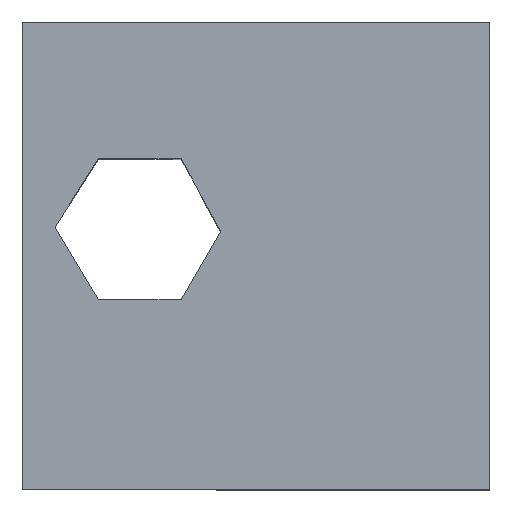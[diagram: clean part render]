
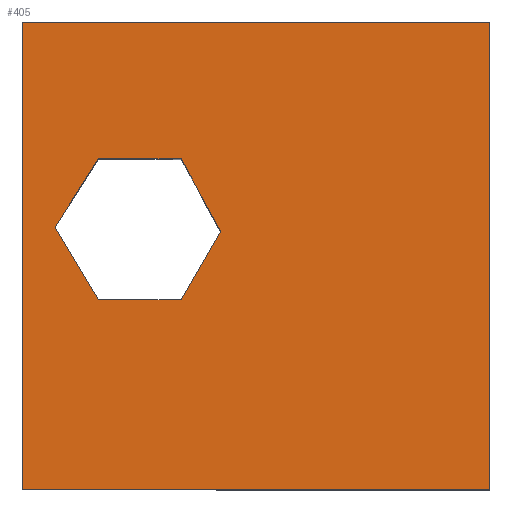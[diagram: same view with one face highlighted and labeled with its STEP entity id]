
A CAD part, top view. The second image highlights one B-rep face of the part: STEP entity #405.
In plain terms, the highlighted planar face has unit normal (0, 0, 1).
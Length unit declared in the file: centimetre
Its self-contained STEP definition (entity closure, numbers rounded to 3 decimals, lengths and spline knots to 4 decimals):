
#13 = VERTEX_POINT ( 'NONE', #82 ) ;
#17 = ORIENTED_EDGE ( 'NONE', *, *, #310, .F. ) ;
#18 = LINE ( 'NONE', #297, #526 ) ;
#20 = LINE ( 'NONE', #160, #78 ) ;
#30 = VERTEX_POINT ( 'NONE', #435 ) ;
#34 = ORIENTED_EDGE ( 'NONE', *, *, #145, .T. ) ;
#35 = CARTESIAN_POINT ( 'NONE',  ( 424.4091, 551.3512, 1000. ) ) ;
#36 = LINE ( 'NONE', #219, #440 ) ;
#37 = EDGE_CURVE ( 'NONE', #215, #13, #348, .T. ) ;
#43 = EDGE_CURVE ( 'NONE', #285, #500, #473, .T. ) ;
#46 = VECTOR ( 'NONE', #143, 100. ) ;
#59 = FACE_BOUND ( 'NONE', #167, .T. ) ;
#68 = ORIENTED_EDGE ( 'NONE', *, *, #252, .T. ) ;
#69 = DIRECTION ( 'NONE',  ( 0., 0., 1. ) ) ;
#78 = VECTOR ( 'NONE', #335, 100. ) ;
#79 = EDGE_CURVE ( 'NONE', #30, #115, #549, .T. ) ;
#82 = CARTESIAN_POINT ( 'NONE',  ( 1000., 1000., 1000. ) ) ;
#85 = VECTOR ( 'NONE', #436, 100. ) ;
#96 = CARTESIAN_POINT ( 'NONE',  ( 0., 1000., 1000. ) ) ;
#115 = VERTEX_POINT ( 'NONE', #35 ) ;
#131 = VERTEX_POINT ( 'NONE', #516 ) ;
#141 = EDGE_CURVE ( 'NONE', #500, #30, #469, .T. ) ;
#143 = DIRECTION ( 'NONE',  ( 1., 0., 0. ) ) ;
#145 = EDGE_CURVE ( 'NONE', #13, #206, #36, .T. ) ;
#160 = CARTESIAN_POINT ( 'NONE',  ( 339.9466, 707.2596, 1000. ) ) ;
#165 = VERTEX_POINT ( 'NONE', #349 ) ;
#167 = EDGE_LOOP ( 'NONE', ( #17, #450, #319, #547, #292, #487 ) ) ;
#172 = DIRECTION ( 'NONE',  ( 0.5, 0.866, 0. ) ) ;
#187 = VECTOR ( 'NONE', #453, 100. ) ;
#190 = CARTESIAN_POINT ( 'NONE',  ( 339.9466, 707.2596, 1000. ) ) ;
#192 = VERTEX_POINT ( 'NONE', #190 ) ;
#201 = EDGE_LOOP ( 'NONE', ( #369, #68, #532, #34 ) ) ;
#206 = VERTEX_POINT ( 'NONE', #96 ) ;
#209 = CARTESIAN_POINT ( 'NONE',  ( 69.9053, 560.9664, 1000. ) ) ;
#213 = DIRECTION ( 'NONE',  ( 0., 1., 0. ) ) ;
#215 = VERTEX_POINT ( 'NONE', #407 ) ;
#219 = CARTESIAN_POINT ( 'NONE',  ( 0., 1000., 1000. ) ) ;
#222 = CARTESIAN_POINT ( 'NONE',  ( 69.9053, 560.9664, 1000. ) ) ;
#236 = LINE ( 'NONE', #521, #46 ) ;
#246 = DIRECTION ( 'NONE',  ( 1., 0., 0. ) ) ;
#252 = EDGE_CURVE ( 'NONE', #131, #215, #236, .T. ) ;
#261 = CARTESIAN_POINT ( 'NONE',  ( 162.6947, 405.0579, 1000. ) ) ;
#285 = VERTEX_POINT ( 'NONE', #209 ) ;
#290 = CARTESIAN_POINT ( 'NONE',  ( 162.6947, 707.2596, 1000. ) ) ;
#292 = ORIENTED_EDGE ( 'NONE', *, *, #403, .F. ) ;
#297 = CARTESIAN_POINT ( 'NONE',  ( 424.4091, 551.3512, 1000. ) ) ;
#301 = VECTOR ( 'NONE', #213, 100. ) ;
#310 = EDGE_CURVE ( 'NONE', #115, #192, #18, .T. ) ;
#319 = ORIENTED_EDGE ( 'NONE', *, *, #141, .F. ) ;
#335 = DIRECTION ( 'NONE',  ( -1., 0., 0. ) ) ;
#337 = FACE_OUTER_BOUND ( 'NONE', #201, .T. ) ;
#348 = LINE ( 'NONE', #395, #301 ) ;
#349 = CARTESIAN_POINT ( 'NONE',  ( 162.6947, 707.2596, 1000. ) ) ;
#354 = AXIS2_PLACEMENT_3D ( 'NONE', #538, #69, #246 ) ;
#369 = ORIENTED_EDGE ( 'NONE', *, *, #448, .T. ) ;
#373 = PLANE ( 'NONE',  #354 ) ;
#377 = DIRECTION ( 'NONE',  ( -0.476, 0.879, 0. ) ) ;
#395 = CARTESIAN_POINT ( 'NONE',  ( 1000., 1000., 1000. ) ) ;
#396 = DIRECTION ( 'NONE',  ( -1., 0., 0. ) ) ;
#403 = EDGE_CURVE ( 'NONE', #165, #285, #415, .T. ) ;
#405 = ADVANCED_FACE ( 'NONE', ( #59, #337 ), #373, .T. ) ;
#407 = CARTESIAN_POINT ( 'NONE',  ( 1000., 0., 1000. ) ) ;
#412 = CARTESIAN_POINT ( 'NONE',  ( 0., 1000., 1000. ) ) ;
#415 = LINE ( 'NONE', #290, #187 ) ;
#416 = LINE ( 'NONE', #412, #431 ) ;
#431 = VECTOR ( 'NONE', #458, 100. ) ;
#435 = CARTESIAN_POINT ( 'NONE',  ( 339.9466, 405.0579, 1000. ) ) ;
#436 = DIRECTION ( 'NONE',  ( 1., 0., 0. ) ) ;
#440 = VECTOR ( 'NONE', #396, 100. ) ;
#448 = EDGE_CURVE ( 'NONE', #206, #131, #416, .T. ) ;
#450 = ORIENTED_EDGE ( 'NONE', *, *, #79, .F. ) ;
#453 = DIRECTION ( 'NONE',  ( -0.536, -0.844, 0. ) ) ;
#458 = DIRECTION ( 'NONE',  ( 0., -1., 0. ) ) ;
#469 = LINE ( 'NONE', #261, #85 ) ;
#470 = VECTOR ( 'NONE', #172, 100. ) ;
#473 = LINE ( 'NONE', #222, #558 ) ;
#487 = ORIENTED_EDGE ( 'NONE', *, *, #506, .F. ) ;
#500 = VERTEX_POINT ( 'NONE', #543 ) ;
#506 = EDGE_CURVE ( 'NONE', #192, #165, #20, .T. ) ;
#516 = CARTESIAN_POINT ( 'NONE',  ( 0., 0., 1000. ) ) ;
#518 = DIRECTION ( 'NONE',  ( 0.511, -0.859, 0. ) ) ;
#521 = CARTESIAN_POINT ( 'NONE',  ( 0., 0., 1000. ) ) ;
#526 = VECTOR ( 'NONE', #377, 100. ) ;
#532 = ORIENTED_EDGE ( 'NONE', *, *, #37, .T. ) ;
#538 = CARTESIAN_POINT ( 'NONE',  ( 0., 0., 1000. ) ) ;
#543 = CARTESIAN_POINT ( 'NONE',  ( 162.6947, 405.0579, 1000. ) ) ;
#547 = ORIENTED_EDGE ( 'NONE', *, *, #43, .F. ) ;
#549 = LINE ( 'NONE', #555, #470 ) ;
#555 = CARTESIAN_POINT ( 'NONE',  ( 339.9466, 405.0579, 1000. ) ) ;
#558 = VECTOR ( 'NONE', #518, 100. ) ;
